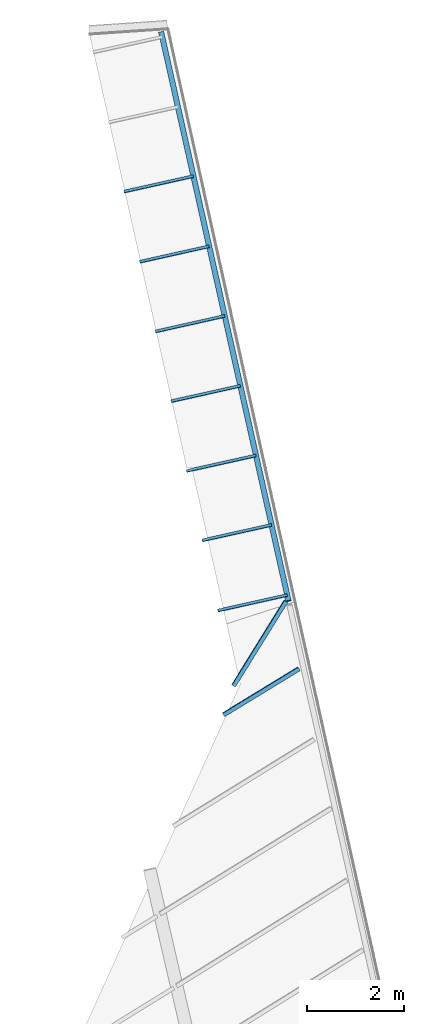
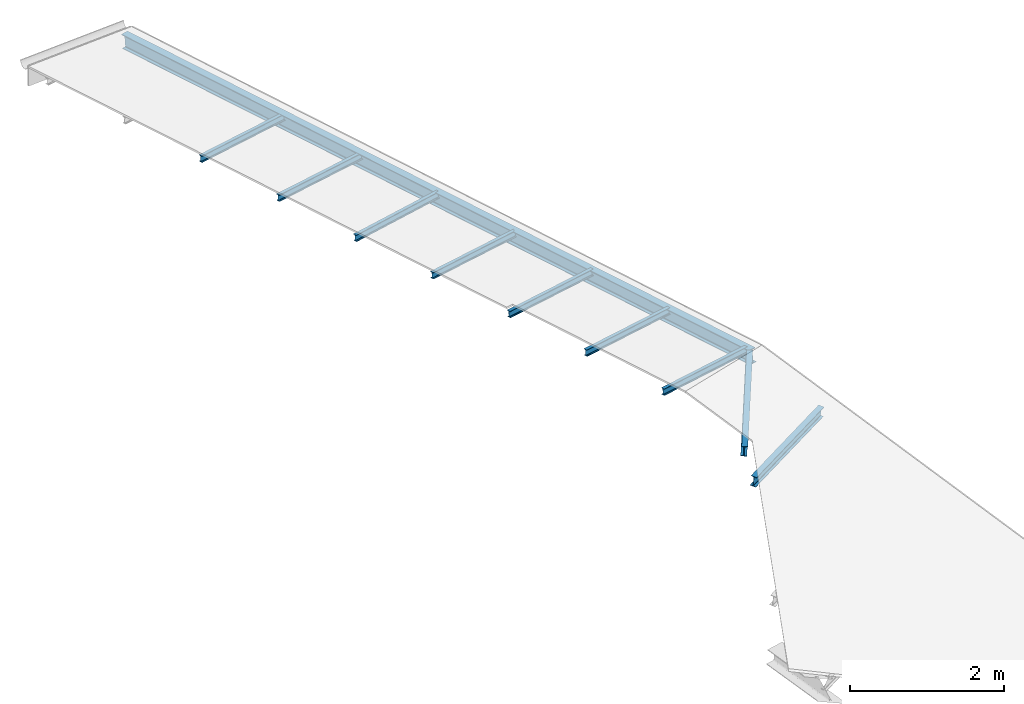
# One storey, part 2 of 5: 10 beams.
"""IFC2X3 building model written with IfcOpenShell, lengths in centimetres."""

from ifc_helpers import new_model, entity, si_unit, converted_unit, derived_unit, direction, frame, frame_2d, origin, place, context, subcontext, project, spatial, polyline, circle_curve, parameter, trimmed, segment, composite_curve, i_section, outline, extrude, material, type_object, element, save


model = new_model("IFC2X3")

# Units and contexts
model_context = context("Model", 3, precision=0.001, world=origin(), true_north=direction((6.12303176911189e-17, 1.0)))
body_context = subcontext(model_context, "Body", "Model", "MODEL_VIEW")
ifc_project = project(units=[si_unit("LENGTHUNIT", "METRE", prefix="CENTI"), si_unit("AREAUNIT", "SQUARE_METRE"), si_unit("VOLUMEUNIT", "CUBIC_METRE"), converted_unit("PLANEANGLEUNIT", "DEGREE", entity("IfcRatioMeasure", 0.0174532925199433), si_unit("PLANEANGLEUNIT", "RADIAN"), dimensions=[0, 0, 0, 0, 0, 0, 0]), si_unit("MASSUNIT", "GRAM", prefix="KILO"), derived_unit("MASSDENSITYUNIT", [(si_unit("MASSUNIT", "GRAM", prefix="KILO"), 1), (si_unit("LENGTHUNIT", "METRE"), -3)]), si_unit("TIMEUNIT", "SECOND"), si_unit("FREQUENCYUNIT", "HERTZ"), si_unit("THERMODYNAMICTEMPERATUREUNIT", "DEGREE_CELSIUS"), derived_unit("THERMALTRANSMITTANCEUNIT", [(si_unit("MASSUNIT", "GRAM", prefix="KILO"), 1), (si_unit("THERMODYNAMICTEMPERATUREUNIT", "KELVIN"), -1), (si_unit("TIMEUNIT", "SECOND"), -3)]), derived_unit("VOLUMETRICFLOWRATEUNIT", [(si_unit("LENGTHUNIT", "METRE"), 3), (si_unit("TIMEUNIT", "SECOND"), -1)]), si_unit("ELECTRICCURRENTUNIT", "AMPERE"), si_unit("ELECTRICVOLTAGEUNIT", "VOLT"), si_unit("POWERUNIT", "WATT"), si_unit("FORCEUNIT", "NEWTON", prefix="KILO"), si_unit("ILLUMINANCEUNIT", "LUX"), si_unit("LUMINOUSFLUXUNIT", "LUMEN"), si_unit("LUMINOUSINTENSITYUNIT", "CANDELA"), derived_unit("USERDEFINED", [(si_unit("MASSUNIT", "GRAM", prefix="KILO"), -1), (si_unit("LENGTHUNIT", "METRE"), -2), (si_unit("TIMEUNIT", "SECOND"), 3), (si_unit("LUMINOUSFLUXUNIT", "LUMEN"), 1)]), derived_unit("LINEARVELOCITYUNIT", [(si_unit("LENGTHUNIT", "METRE"), 1), (si_unit("TIMEUNIT", "SECOND"), -1)]), si_unit("PRESSUREUNIT", "PASCAL"), derived_unit("USERDEFINED", [(si_unit("LENGTHUNIT", "METRE"), -2), (si_unit("MASSUNIT", "GRAM", prefix="KILO"), 1), (si_unit("TIMEUNIT", "SECOND"), -2)])], contexts=[model_context])

# Site, building, storey
site_placement = place(None, frame((2611.71187422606, 13650.4058644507, 0.0), z_axis=(0.0, 0.0, 1.0), x_axis=(0.0673222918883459, -0.997731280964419, 0.0)))
site = spatial("IfcSite", under=ifc_project, at=site_placement, Name="Surface", CompositionType="ELEMENT")
building_placement = place(site_placement, origin())
building = spatial("IfcBuilding", under=site, at=building_placement, CompositionType="ELEMENT")
storey_placement = place(building_placement, frame((0.0, 0.0, 87229.0)))
storey = spatial("IfcBuildingStorey", under=building, at=storey_placement, Name="1 Toiture auvent", CompositionType="ELEMENT", Elevation=87229.0)

# Beams
ifc_material = material(Name="Acier structurel - S235")
beam_type_1 = type_object("IfcBeamType", Name="IPE160", PredefinedType="BEAM")
beam_1_placement = place(storey_placement, frame((3273.91979031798, 1378.4355480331, 146.61202585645), z_axis=(-0.00106503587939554, 0.00204461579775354, 0.999997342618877), x_axis=(0.461978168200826, -0.88688830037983, 0.00230537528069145)))
element("IfcBeam", 1, at=beam_1_placement, inside=storey, type_object=beam_type_1, material=ifc_material, Name="IPE:IPE160", ObjectType="IPE:IPE160", context=body_context, shape_type="SweptSolid", body=[
    extrude(outline(composite_curve([segment(polyline([(-4.10000000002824, -7.26000000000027), (-4.10000000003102, -8.0)]), True, "CONTINUOUS"), segment(polyline([(-4.10000000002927, -8.0), (4.09999999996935, -8.0)]), True, "CONTINUOUS"), segment(polyline([(4.09999999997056, -8.0), (4.09999999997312, -7.26000000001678)]), True, "CONTINUOUS"), segment(polyline([(4.09999999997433, -7.26000000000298), (1.14999999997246, -7.26000000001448)]), True, "CONTINUOUS"), segment(trimmed(circle_curve(frame_2d((1.14999999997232, -6.36000000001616), x_axis=(-1.0, 0.0)), 0.899999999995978), [parameter(0.0)], [parameter(90.0000000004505)], True, "PARAMETER"), False, "CONTINUOUS"), segment(polyline([(0.249999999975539, -6.36000000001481), (0.250000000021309, 6.35999999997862)]), True, "CONTINUOUS"), segment(trimmed(circle_curve(frame_2d((1.15000000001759, 6.36000000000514), x_axis=(0.0, 1.0)), 0.899999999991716), [parameter(0.0)], [parameter(90.0000000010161)], True, "PARAMETER"), False, "CONTINUOUS"), segment(polyline([(1.15000000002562, 7.25999999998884), (4.10000000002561, 7.25999999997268)]), True, "CONTINUOUS"), segment(polyline([(4.10000000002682, 7.25999999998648), (4.10000000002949, 8.0)]), True, "CONTINUOUS"), segment(polyline([(4.10000000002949, 8.0), (-4.09999999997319, 8.0)]), True, "CONTINUOUS"), segment(polyline([(-4.09999999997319, 8.0), (-4.09999999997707, 7.25999999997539)]), True, "CONTINUOUS"), segment(polyline([(-4.09999999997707, 7.25999999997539), (-1.14999999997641, 7.25999999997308)]), True, "CONTINUOUS"), segment(trimmed(circle_curve(frame_2d((-1.14999999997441, 6.35999999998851), x_axis=(1.0, 0.0)), 0.899999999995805), [parameter(0.0)], [parameter(90.0000000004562)], True, "PARAMETER"), False, "CONTINUOUS"), segment(polyline([(-0.249999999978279, 6.35999999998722), (-0.250000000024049, -6.36000000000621)]), True, "CONTINUOUS"), segment(trimmed(circle_curve(frame_2d((-1.15000000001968, -6.36000000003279), x_axis=(0.0, -1.0)), 0.899999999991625), [parameter(0.0)], [parameter(90.0000000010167)], True, "PARAMETER"), False, "CONTINUOUS"), segment(polyline([(-1.15000000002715, -7.26000000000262), (-4.10000000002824, -7.26000000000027)]), True, "CONTINUOUS")], self_intersect=False)), frame((9.71573686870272, -0.697245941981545, -7.96955758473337), z_axis=(-1.0, 0.0, 0.0), x_axis=(0.0, -0.996194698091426, 0.0871557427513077)), (0.0, 0.0, -1.0), 183.17),
])
beam_2_placement = place(storey_placement, frame((3131.30618730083, 1356.56271082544, 160.488103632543), z_axis=(0.0359709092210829, -0.0257909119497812, 0.999019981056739), x_axis=(0.8118948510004, -0.582123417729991, -0.044261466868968)))
element("IfcBeam", 2, at=beam_2_placement, inside=storey, type_object=beam_type_1, material=ifc_material, Name="IPE:IPE160", ObjectType="IPE:IPE160", context=body_context, shape_type="SweptSolid", body=[
    extrude(outline(composite_curve([segment(polyline([(-4.10000000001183, -7.26000000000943), (-4.10000000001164, -8.0)]), True, "CONTINUOUS"), segment(polyline([(-4.10000000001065, -8.0), (4.0999999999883, -8.0)]), True, "CONTINUOUS"), segment(polyline([(4.0999999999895, -8.0), (4.09999999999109, -7.25999999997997)]), True, "CONTINUOUS"), segment(polyline([(4.09999999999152, -7.25999999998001), (1.14999999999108, -7.2599999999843)]), True, "CONTINUOUS"), segment(trimmed(circle_curve(frame_2d((1.14999999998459, -6.35999999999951), x_axis=(-1.0, 0.0)), 0.899999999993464), [parameter(0.0)], [parameter(90.0000000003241)], True, "PARAMETER"), False, "CONTINUOUS"), segment(polyline([(0.249999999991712, -6.3599999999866), (0.250000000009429, 6.3600000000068)]), True, "CONTINUOUS"), segment(trimmed(circle_curve(frame_2d((1.15000000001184, 6.36000000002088), x_axis=(0.0, 1.0)), 0.900000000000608), [parameter(0.0)], [parameter(89.9999999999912)], True, "PARAMETER"), False, "CONTINUOUS"), segment(polyline([(1.15000000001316, 7.26000000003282), (4.10000000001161, 7.26000000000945)]), True, "CONTINUOUS"), segment(polyline([(4.1000000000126, 7.26000000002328), (4.10000000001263, 8.0)]), True, "CONTINUOUS"), segment(polyline([(4.10000000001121, 8.0), (-4.09999999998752, 8.0)]), True, "CONTINUOUS"), segment(polyline([(-4.09999999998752, 8.0), (-4.09999999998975, 7.26000000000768)]), True, "CONTINUOUS"), segment(polyline([(-4.09999999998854, 7.26000000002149), (-1.14999999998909, 7.26000000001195)]), True, "CONTINUOUS"), segment(trimmed(circle_curve(frame_2d((-1.14999999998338, 6.36000000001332), x_axis=(1.0, 0.0)), 0.899999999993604), [parameter(0.0)], [parameter(90.0000000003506)], True, "PARAMETER"), False, "CONTINUOUS"), segment(polyline([(-0.249999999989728, 6.36000000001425), (-0.250000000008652, -6.35999999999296)]), True, "CONTINUOUS"), segment(trimmed(circle_curve(frame_2d((-1.15000000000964, -6.35999999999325), x_axis=(0.0, -1.0)), 0.900000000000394), [parameter(0.0)], [parameter(90.0000000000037)], True, "PARAMETER"), False, "CONTINUOUS"), segment(polyline([(-1.15000000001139, -7.26000000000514), (-4.10000000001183, -7.26000000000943)]), True, "CONTINUOUS")], self_intersect=False)), frame((7.53759619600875, -0.697245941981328, -7.96955758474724), z_axis=(-1.0, 0.0, 0.0), x_axis=(0.0, -0.996194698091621, 0.0871557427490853)), (0.0, 0.0, -1.0), 205.920000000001),
])
beam_type_2 = type_object("IfcBeamType", Name="IPE220", PredefinedType="BEAM")
beam_3_placement = place(storey_placement, frame((1944.3149686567, 1173.49811768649, 40.0), z_axis=(-0.0968264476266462, -0.0149242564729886, 0.99518938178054), x_axis=(0.983574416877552, 0.151602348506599, 0.0979698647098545)))
element("IfcBeam", 3, at=beam_3_placement, inside=storey, type_object=beam_type_2, material=ifc_material, Name="IPE:IPE220", ObjectType="IPE:IPE220", context=body_context, shape_type="SweptSolid", body=[
    extrude(i_section(OverallWidth=11.0000000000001, OverallDepth=22.0000000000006, WebThickness=0.590000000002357, FlangeThickness=0.920000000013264, FilletRadius=1.20000000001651, at=frame_2d((1.77635683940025e-15, 1.07025499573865e-13), x_axis=(0.0, 1.0))), frame((1.09407681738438, 0.0, -11.0), z_axis=(1.0, 0.0, 0.0), x_axis=(0.0, 0.0, -1.0)), (0.0, 0.0, 1.0), 1210.07),
])
beam_type_3 = type_object("IfcBeamType", Name="IPE100", PredefinedType="BEAM")
beam_4_placement = place(storey_placement, frame((2269.4766278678, 1075.01449585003, 72.1801885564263), z_axis=(-0.00227595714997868, 0.0149127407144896, 0.999886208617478), x_axis=(-0.150854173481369, 0.988440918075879, -0.0150854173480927)))
element("IfcBeam", 4, at=beam_4_placement, inside=storey, type_object=beam_type_3, material=ifc_material, Name="IPE:IPE100", ObjectType="IPE:IPE100", context=body_context, shape_type="SweptSolid", body=[
    extrude(outline(composite_curve([segment(polyline([(-2.74999999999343, -4.42999999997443), (-2.74999999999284, -5.0)]), True, "CONTINUOUS"), segment(polyline([(-2.74999999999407, -5.0), (2.75000000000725, -5.0)]), True, "CONTINUOUS"), segment(polyline([(2.75000000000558, -5.0), (2.75000000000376, -4.43000000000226)]), True, "CONTINUOUS"), segment(polyline([(2.75000000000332, -4.43000000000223), (0.905000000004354, -4.42999999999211)]), True, "CONTINUOUS"), segment(trimmed(circle_curve(frame_2d((0.904999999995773, -3.72999999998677), x_axis=(-1.0, 0.0)), 0.699999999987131), [parameter(0.0)], [parameter(90.0000000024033)], True, "PARAMETER"), False, "CONTINUOUS"), segment(polyline([(0.205000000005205, -3.72999999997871), (0.204999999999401, 3.73000000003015)]), True, "CONTINUOUS"), segment(trimmed(circle_curve(frame_2d((0.904999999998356, 3.73000000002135), x_axis=(0.0, 1.0)), 0.699999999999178), [parameter(0.0)], [parameter(89.9999999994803)], True, "PARAMETER"), False, "CONTINUOUS"), segment(polyline([(0.904999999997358, 4.43000000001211), (2.74999999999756, 4.43000000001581)]), True, "CONTINUOUS"), segment(polyline([(2.74999999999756, 4.43000000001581), (2.74999999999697, 5.0)]), True, "CONTINUOUS"), segment(polyline([(2.74999999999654, 5.0), (-2.75000000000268, 5.0)]), True, "CONTINUOUS"), segment(polyline([(-2.75000000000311, 5.0), (-2.75000000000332, 4.43000000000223)]), True, "CONTINUOUS"), segment(polyline([(-2.75000000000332, 4.43000000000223), (-0.905000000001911, 4.43000000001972)]), True, "CONTINUOUS"), segment(trimmed(circle_curve(frame_2d((-0.904999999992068, 3.73000000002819), x_axis=(1.0, 0.0)), 0.699999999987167), [parameter(0.0)], [parameter(90.0000000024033)], True, "PARAMETER"), False, "CONTINUOUS"), segment(polyline([(-0.205000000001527, 3.73000000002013), (-0.204999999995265, -3.72999999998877)]), True, "CONTINUOUS"), segment(trimmed(circle_curve(frame_2d((-0.904999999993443, -3.72999999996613), x_axis=(0.0, -1.0)), 0.699999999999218), [parameter(0.0)], [parameter(89.999999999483)], True, "PARAMETER"), False, "CONTINUOUS"), segment(polyline([(-0.904999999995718, -4.42999999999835), (-2.74999999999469, -4.42999999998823)]), True, "CONTINUOUS")], self_intersect=False)), frame((0.00154769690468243, -0.435778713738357, -4.98097349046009), z_axis=(-1.0, 0.0, 0.0), x_axis=(0.0, -0.996194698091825, 0.0871557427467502)), (0.0, 0.0, -1.0), 146.880000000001),
])
beam_5_placement = place(storey_placement, frame((2416.32858074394, 1097.65128862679, 86.8653838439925), z_axis=(-0.00227713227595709, 0.0149164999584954, 0.999886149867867), x_axis=(-0.150893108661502, 0.988434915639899, -0.0150893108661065)))
element("IfcBeam", 5, at=beam_5_placement, inside=storey, type_object=beam_type_3, material=ifc_material, Name="IPE:IPE100", ObjectType="IPE:IPE100", context=body_context, shape_type="SweptSolid", body=[
    extrude(outline(composite_curve([segment(polyline([(-2.75000000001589, -4.43000000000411), (-2.75000000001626, -5.0)]), True, "CONTINUOUS"), segment(polyline([(-2.75000000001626, -5.0), (2.74999999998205, -5.0)]), True, "CONTINUOUS"), segment(polyline([(2.74999999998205, -5.0), (2.74999999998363, -4.43000000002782)]), True, "CONTINUOUS"), segment(polyline([(2.74999999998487, -4.43000000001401), (0.904999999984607, -4.43000000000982)]), True, "CONTINUOUS"), segment(trimmed(circle_curve(frame_2d((0.90499999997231, -3.73000000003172), x_axis=(-1.0, 0.0)), 0.699999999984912), [parameter(0.0)], [parameter(90.0000000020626)], True, "PARAMETER"), False, "CONTINUOUS"), segment(polyline([(0.204999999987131, -3.73000000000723), (0.20500000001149, 3.72999999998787)]), True, "CONTINUOUS"), segment(trimmed(circle_curve(frame_2d((0.905000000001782, 3.72999999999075), x_axis=(0.0, 1.0)), 0.69999999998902), [parameter(0.0)], [parameter(90.0000000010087)], True, "PARAMETER"), False, "CONTINUOUS"), segment(polyline([(0.905000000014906, 4.42999999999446), (2.75000000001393, 4.42999999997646)]), True, "CONTINUOUS"), segment(polyline([(2.75000000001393, 4.42999999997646), (2.75000000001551, 5.0)]), True, "CONTINUOUS"), segment(polyline([(2.75000000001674, 5.0), (-2.74999999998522, 5.0)]), True, "CONTINUOUS"), segment(polyline([(-2.74999999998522, 5.0), (-2.74999999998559, 4.43000000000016)]), True, "CONTINUOUS"), segment(polyline([(-2.74999999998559, 4.43000000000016), (-0.904999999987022, 4.4299999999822)]), True, "CONTINUOUS"), segment(trimmed(circle_curve(frame_2d((-0.904999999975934, 3.72999999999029), x_axis=(1.0, 0.0)), 0.699999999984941), [parameter(0.0)], [parameter(90.0000000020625)], True, "PARAMETER"), False, "CONTINUOUS"), segment(polyline([(-0.20499999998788, 3.72999999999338), (-0.205000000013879, -3.73000000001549)]), True, "CONTINUOUS"), segment(trimmed(circle_curve(frame_2d((-0.905000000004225, -3.73000000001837), x_axis=(0.0, -1.0)), 0.699999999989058), [parameter(0.0)], [parameter(90.0000000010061)], True, "PARAMETER"), False, "CONTINUOUS"), segment(polyline([(-0.90500000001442, -4.4299999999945), (-2.75000000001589, -4.43000000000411)]), True, "CONTINUOUS")], self_intersect=False)), frame((0.000798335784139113, -0.435778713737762, -4.98097349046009), z_axis=(-1.0, 0.0, 0.0), x_axis=(0.0, -0.996194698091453, 0.0871557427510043)), (0.0, 0.0, -1.0), 146.880000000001),
])
beam_6_placement = place(storey_placement, frame((2562.31831496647, 1120.13592178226, 99.3200000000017), z_axis=(8.38230610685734e-06, -5.43832066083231e-05, 1.0), x_axis=(-0.152335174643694, 0.988328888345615, 5.50254142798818e-05)))
element("IfcBeam", 6, at=beam_6_placement, inside=storey, type_object=beam_type_3, material=ifc_material, Name="IPE:IPE100", ObjectType="IPE:IPE100", context=body_context, shape_type="SweptSolid", body=[
    extrude(outline(composite_curve([segment(polyline([(-2.74999999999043, -4.4300000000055), (-2.74999999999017, -5.0)]), True, "CONTINUOUS"), segment(polyline([(-2.7499999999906, -5.0), (2.75000000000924, -5.0)]), True, "CONTINUOUS"), segment(polyline([(2.75000000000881, -5.0), (2.75000000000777, -4.43000000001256)]), True, "CONTINUOUS"), segment(polyline([(2.75000000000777, -4.43000000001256), (0.905000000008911, -4.43000000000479)]), True, "CONTINUOUS"), segment(trimmed(circle_curve(frame_2d((0.905000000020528, -3.72999999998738), x_axis=(-1.0, 0.0)), 0.700000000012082), [parameter(0.0)], [parameter(89.9999999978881)], True, "PARAMETER"), False, "CONTINUOUS"), segment(polyline([(0.205000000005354, -3.73000000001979), (0.204999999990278, 3.72999999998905)]), True, "CONTINUOUS"), segment(trimmed(circle_curve(frame_2d((0.904999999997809, 3.72999999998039), x_axis=(0.0, 1.0)), 0.700000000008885), [parameter(0.0)], [parameter(89.9999999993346)], True, "PARAMETER"), False, "CONTINUOUS"), segment(polyline([(0.904999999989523, 4.42999999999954), (2.74999999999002, 4.43000000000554)]), True, "CONTINUOUS"), segment(polyline([(2.74999999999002, 4.43000000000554), (2.74999999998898, 5.0)]), True, "CONTINUOUS"), segment(polyline([(2.74999999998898, 5.0), (-2.75000000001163, 5.0)]), True, "CONTINUOUS"), segment(polyline([(-2.75000000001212, 5.0), (-2.75000000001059, 4.42999999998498)]), True, "CONTINUOUS"), segment(polyline([(-2.75000000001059, 4.42999999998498), (-0.905000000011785, 4.42999999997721)]), True, "CONTINUOUS"), segment(trimmed(circle_curve(frame_2d((-0.90500000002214, 3.72999999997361), x_axis=(1.0, 0.0)), 0.700000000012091), [parameter(0.0)], [parameter(89.9999999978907)], True, "PARAMETER"), False, "CONTINUOUS"), segment(polyline([(-0.205000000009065, 3.72999999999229), (-0.204999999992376, -3.73000000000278)]), True, "CONTINUOUS"), segment(trimmed(circle_curve(frame_2d((-0.905000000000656, -3.73000000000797), x_axis=(0.0, -1.0)), 0.700000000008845), [parameter(0.0)], [parameter(89.999999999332)], True, "PARAMETER"), False, "CONTINUOUS"), segment(polyline([(-0.904999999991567, -4.43000000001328), (-2.74999999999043, -4.4300000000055)]), True, "CONTINUOUS")], self_intersect=False)), frame((0.00152394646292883, -0.435778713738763, -4.98097349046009), z_axis=(-1.0, 0.0, 0.0), x_axis=(0.0, -0.996194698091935, 0.0871557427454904)), (0.0, 0.0, -1.0), 146.88),
])
beam_7_placement = place(storey_placement, frame((2708.26625708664, 1142.64825645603, 116.059151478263), z_axis=(-0.00227921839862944, 0.0149231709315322, 0.999886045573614), x_axis=(-0.150962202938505, 0.988424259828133, -0.0150962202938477)))
element("IfcBeam", 7, at=beam_7_placement, inside=storey, type_object=beam_type_3, material=ifc_material, Name="IPE:IPE100", ObjectType="IPE:IPE100", context=body_context, shape_type="SweptSolid", body=[
    extrude(outline(composite_curve([segment(polyline([(-2.7500000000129, -4.42999999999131), (-2.75000000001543, -5.0)]), True, "CONTINUOUS"), segment(polyline([(-2.75000000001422, -5.0), (2.74999999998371, -5.0)]), True, "CONTINUOUS"), segment(polyline([(2.74999999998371, -5.0), (2.74999999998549, -4.43000000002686)]), True, "CONTINUOUS"), segment(polyline([(2.74999999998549, -4.43000000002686), (0.904999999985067, -4.43000000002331)]), True, "CONTINUOUS"), segment(trimmed(circle_curve(frame_2d((0.904999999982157, -3.73000000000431), x_axis=(-1.0, 0.0)), 0.699999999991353), [parameter(0.0)], [parameter(90.0000000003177)], True, "PARAMETER"), False, "CONTINUOUS"), segment(polyline([(0.204999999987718, -3.730000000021), (0.205000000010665, 3.7299999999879)]), True, "CONTINUOUS"), segment(trimmed(circle_curve(frame_2d((0.905000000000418, 3.72999999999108), x_axis=(0.0, 1.0)), 0.699999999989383), [parameter(0.0)], [parameter(90.0000000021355)], True, "PARAMETER"), False, "CONTINUOUS"), segment(polyline([(0.905000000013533, 4.42999999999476), (2.75000000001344, 4.42999999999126)]), True, "CONTINUOUS"), segment(polyline([(2.75000000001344, 4.42999999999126), (2.75000000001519, 5.0)]), True, "CONTINUOUS"), segment(polyline([(2.75000000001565, 5.0), (-2.74999999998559, 5.0)]), True, "CONTINUOUS"), segment(polyline([(-2.74999999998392, 5.0), (-2.74999999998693, 4.42999999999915)]), True, "CONTINUOUS"), segment(polyline([(-2.7499999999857, 4.43000000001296), (-0.904999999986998, 4.42999999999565)]), True, "CONTINUOUS"), segment(trimmed(circle_curve(frame_2d((-0.904999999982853, 3.72999999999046), x_axis=(1.0, 0.0)), 0.699999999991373), [parameter(0.0)], [parameter(90.0000000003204)], True, "PARAMETER"), False, "CONTINUOUS"), segment(polyline([(-0.204999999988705, 3.72999999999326), (-0.20500000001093, -3.73000000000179)]), True, "CONTINUOUS"), segment(trimmed(circle_curve(frame_2d((-0.905000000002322, -3.73000000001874), x_axis=(0.0, -1.0)), 0.699999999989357), [parameter(0.0)], [parameter(90.0000000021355)], True, "PARAMETER"), False, "CONTINUOUS"), segment(polyline([(-0.905000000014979, -4.43000000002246), (-2.75000000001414, -4.43000000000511)]), True, "CONTINUOUS")], self_intersect=False)), frame((0.00150039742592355, -0.435778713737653, -4.98097349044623), z_axis=(-1.0, 0.0, 0.0), x_axis=(0.0, -0.996194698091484, 0.0871557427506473)), (0.0, 0.0, -1.0), 146.880000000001),
])
beam_8_placement = place(storey_placement, frame((2854.0680748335, 1165.12261275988, 130.639333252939), z_axis=(-0.00228029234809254, 0.0149266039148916, 0.999885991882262), x_axis=(-0.150997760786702, 0.988418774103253, -0.015099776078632)))
element("IfcBeam", 8, at=beam_8_placement, inside=storey, type_object=beam_type_3, material=ifc_material, Name="IPE:IPE100", ObjectType="IPE:IPE100", context=body_context, shape_type="SweptSolid", body=[
    extrude(outline(composite_curve([segment(polyline([(-2.74999999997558, -4.4300000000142), (-2.74999999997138, -5.0)]), True, "CONTINUOUS"), segment(polyline([(-2.74999999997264, -5.0), (2.75000000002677, -5.0)]), True, "CONTINUOUS"), segment(polyline([(2.75000000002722, -5.0), (2.75000000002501, -4.42999999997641)]), True, "CONTINUOUS"), segment(polyline([(2.7500000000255, -4.42999999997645), (0.905000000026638, -4.42999999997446)]), True, "CONTINUOUS"), segment(trimmed(circle_curve(frame_2d((0.905000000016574, -3.72999999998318), x_axis=(-1.0, 0.0)), 0.699999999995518), [parameter(0.0)], [parameter(90.0000000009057)], True, "PARAMETER"), False, "CONTINUOUS"), segment(polyline([(0.20500000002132, -3.7299999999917), (0.204999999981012, 3.7300000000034)]), True, "CONTINUOUS"), segment(trimmed(circle_curve(frame_2d((0.904999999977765, 3.73000000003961), x_axis=(0.0, 1.0)), 0.699999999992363), [parameter(0.0)], [parameter(90.0000000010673)], True, "PARAMETER"), False, "CONTINUOUS"), segment(polyline([(0.904999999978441, 4.43000000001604), (2.74999999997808, 4.4300000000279)]), True, "CONTINUOUS"), segment(polyline([(2.74999999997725, 4.43000000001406), (2.74999999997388, 5.0)]), True, "CONTINUOUS"), segment(polyline([(2.74999999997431, 5.0), (-2.75000000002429, 5.0)]), True, "CONTINUOUS"), segment(polyline([(-2.75000000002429, 5.0), (-2.75000000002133, 4.43000000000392)]), True, "CONTINUOUS"), segment(polyline([(-2.75000000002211, 4.42999999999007), (-0.90500000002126, 4.43000000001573)]), True, "CONTINUOUS"), segment(trimmed(circle_curve(frame_2d((-0.905000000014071, 3.72999999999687), x_axis=(1.0, 0.0)), 0.699999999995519), [parameter(0.0)], [parameter(90.0000000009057)], True, "PARAMETER"), False, "CONTINUOUS"), segment(polyline([(-0.205000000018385, 3.73000000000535), (-0.204999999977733, -3.72999999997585)]), True, "CONTINUOUS"), segment(trimmed(circle_curve(frame_2d((-0.904999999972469, -3.72999999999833), x_axis=(0.0, -1.0)), 0.699999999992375), [parameter(0.0)], [parameter(90.0000000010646)], True, "PARAMETER"), False, "CONTINUOUS"), segment(polyline([(-0.904999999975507, -4.43000000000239), (-2.74999999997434, -4.4300000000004)]), True, "CONTINUOUS")], self_intersect=False)), frame((0.00106892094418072, -0.435778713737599, -4.98097349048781), z_axis=(-1.0, 0.0, 0.0), x_axis=(0.0, -0.996194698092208, 0.0871557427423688)), (0.0, 0.0, -1.0), 146.880000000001),
])
beam_9_placement = place(storey_placement, frame((2999.44469642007, 1187.53325775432, 145.1769954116), z_axis=(-0.00228027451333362, 0.0149265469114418, 0.999885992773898), x_axis=(-0.150997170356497, 0.988418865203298, -0.0150997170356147)))
element("IfcBeam", 9, at=beam_9_placement, inside=storey, type_object=beam_type_3, material=ifc_material, Name="IPE:IPE100", ObjectType="IPE:IPE100", context=body_context, shape_type="SweptSolid", body=[
    extrude(outline(composite_curve([segment(polyline([(-2.74999999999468, -4.4299999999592), (-2.74999999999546, -5.0)]), True, "CONTINUOUS"), segment(polyline([(-2.74999999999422, -5.0), (2.75000000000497, -5.0)]), True, "CONTINUOUS"), segment(polyline([(2.7500000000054, -5.0), (2.75000000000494, -4.42999999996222)]), True, "CONTINUOUS"), segment(polyline([(2.7500000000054, -4.42999999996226), (0.905000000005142, -4.42999999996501)]), True, "CONTINUOUS"), segment(trimmed(circle_curve(frame_2d((0.905000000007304, -3.72999999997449), x_axis=(-1.0, 0.0)), 0.70000000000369), [parameter(0.0)], [parameter(90.0000000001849)], True, "PARAMETER"), False, "CONTINUOUS"), segment(polyline([(0.205000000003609, -3.72999999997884), (0.205000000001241, 3.73000000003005)]), True, "CONTINUOUS"), segment(trimmed(circle_curve(frame_2d((0.904999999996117, 3.73000000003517), x_axis=(0.0, 1.0)), 0.699999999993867), [parameter(0.0)], [parameter(90.0000000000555)], True, "PARAMETER"), False, "CONTINUOUS"), segment(polyline([(0.905000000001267, 4.43000000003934), (2.7500000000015, 4.43000000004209)]), True, "CONTINUOUS"), segment(polyline([(2.75000000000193, 4.43000000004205), (2.75000000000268, 5.0)]), True, "CONTINUOUS"), segment(polyline([(2.75000000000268, 5.0), (-2.74999999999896, 5.0)]), True, "CONTINUOUS"), segment(polyline([(-2.74999999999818, 5.0), (-2.74999999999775, 4.43000000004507)]), True, "CONTINUOUS"), segment(polyline([(-2.74999999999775, 4.43000000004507), (-0.90499999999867, 4.43000000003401)]), True, "CONTINUOUS"), segment(trimmed(circle_curve(frame_2d((-0.905000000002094, 3.73000000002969), x_axis=(1.0, 0.0)), 0.70000000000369), [parameter(0.0)], [parameter(90.0000000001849)], True, "PARAMETER"), False, "CONTINUOUS"), segment(polyline([(-0.204999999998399, 3.73000000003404), (-0.204999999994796, -3.72999999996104)]), True, "CONTINUOUS"), segment(trimmed(circle_curve(frame_2d((-0.904999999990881, -3.72999999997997), x_axis=(0.0, -1.0)), 0.699999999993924), [parameter(0.0)], [parameter(90.0000000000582)], True, "PARAMETER"), False, "CONTINUOUS"), segment(polyline([(-0.904999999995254, -4.42999999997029), (-2.74999999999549, -4.42999999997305)]), True, "CONTINUOUS")], self_intersect=False)), frame((0.00473811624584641, -0.435778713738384, -4.98097349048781), z_axis=(-1.0, 0.0, 0.0), x_axis=(0.0, -0.996194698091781, 0.0871557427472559)), (0.0, 0.0, -1.0), 146.87),
])
beam_10_placement = place(storey_placement, frame((3146.275744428, 1210.16080455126, 159.860100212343), z_axis=(-0.00228243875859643, 0.0149334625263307, 0.999885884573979), x_axis=(-0.151068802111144, 0.988407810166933, -0.0151068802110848)))
element("IfcBeam", 10, at=beam_10_placement, inside=storey, type_object=beam_type_3, material=ifc_material, Name="IPE:IPE100", ObjectType="IPE:IPE100", context=body_context, shape_type="SweptSolid", body=[
    extrude(outline(composite_curve([segment(polyline([(-2.7500000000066, -4.42999999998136), (-2.75000000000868, -5.0)]), True, "CONTINUOUS"), segment(polyline([(-2.75000000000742, -5.0), (2.74999999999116, -5.0)]), True, "CONTINUOUS"), segment(polyline([(2.74999999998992, -5.0), (2.74999999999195, -4.43000000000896)]), True, "CONTINUOUS"), segment(polyline([(2.74999999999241, -4.430000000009), (0.904999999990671, -4.43000000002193)]), True, "CONTINUOUS"), segment(trimmed(circle_curve(frame_2d((0.904999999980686, -3.73000000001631), x_axis=(-1.0, 0.0)), 0.699999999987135), [parameter(0.0)], [parameter(90.000000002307)], True, "PARAMETER"), False, "CONTINUOUS"), segment(polyline([(0.204999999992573, -3.73000000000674), (0.205000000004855, 3.73000000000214)]), True, "CONTINUOUS"), segment(trimmed(circle_curve(frame_2d((0.90499999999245, 3.73000000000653), x_axis=(0.0, 1.0)), 0.699999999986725), [parameter(0.0)], [parameter(90.0000000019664)], True, "PARAMETER"), False, "CONTINUOUS"), segment(polyline([(0.905000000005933, 4.42999999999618), (2.75000000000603, 4.42999999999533)]), True, "CONTINUOUS"), segment(polyline([(2.75000000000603, 4.42999999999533), (2.75000000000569, 5.0)]), True, "CONTINUOUS"), segment(polyline([(2.75000000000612, 5.0), (-2.74999999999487, 5.0)]), True, "CONTINUOUS"), segment(polyline([(-2.74999999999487, 5.0), (-2.7499999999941, 4.42999999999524)]), True, "CONTINUOUS"), segment(polyline([(-2.74999999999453, 4.42999999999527), (-0.904999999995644, 4.42999999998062)]), True, "CONTINUOUS"), segment(trimmed(circle_curve(frame_2d((-0.904999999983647, 3.73000000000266), x_axis=(1.0, 0.0)), 0.699999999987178), [parameter(0.0)], [parameter(90.000000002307)], True, "PARAMETER"), False, "CONTINUOUS"), segment(polyline([(-0.204999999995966, 3.72999999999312), (-0.205000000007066, -3.73000000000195)]), True, "CONTINUOUS"), segment(trimmed(circle_curve(frame_2d((-0.904999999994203, -3.73000000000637), x_axis=(0.0, -1.0)), 0.699999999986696), [parameter(0.0)], [parameter(90.0000000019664)], True, "PARAMETER"), False, "CONTINUOUS"), segment(polyline([(-0.905000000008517, -4.43000000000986), (-2.75000000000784, -4.42999999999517)]), True, "CONTINUOUS")], self_intersect=False)), frame((0.00203111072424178, -0.435778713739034, -4.98097349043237), z_axis=(-1.0, 0.0, 0.0), x_axis=(0.0, -0.99619469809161, 0.087155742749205)), (0.0, 0.0, -1.0), 146.880000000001),
])

save(model, "model.ifc")
